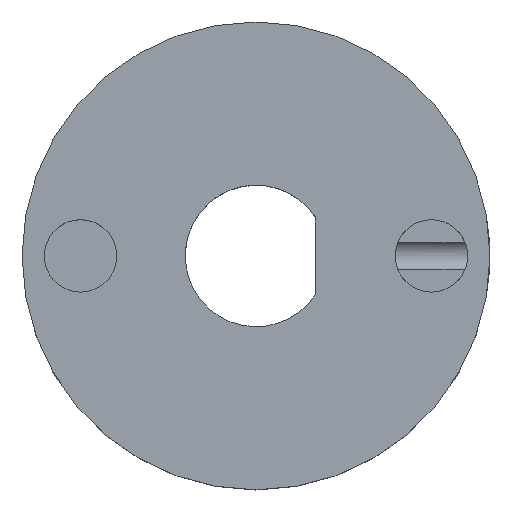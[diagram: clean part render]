
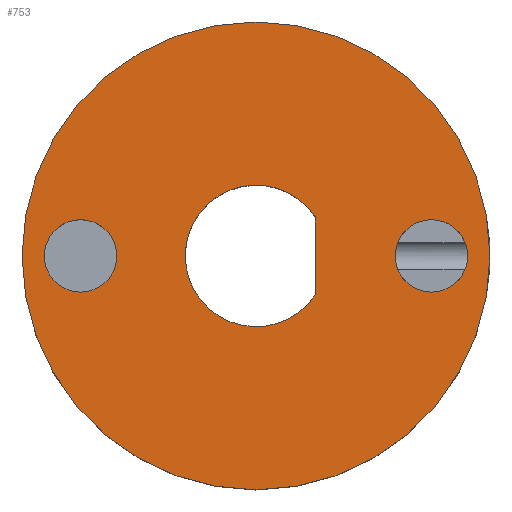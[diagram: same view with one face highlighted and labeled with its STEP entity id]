
A CAD part, top view. The second image highlights one B-rep face of the part: STEP entity #753.
In plain terms, the highlighted planar face has unit normal (0, 0, 1).
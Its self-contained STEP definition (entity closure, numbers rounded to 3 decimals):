
#31 = CYLINDRICAL_SURFACE('',#32,20.);
#32 = AXIS2_PLACEMENT_3D('',#33,#34,#35);
#33 = CARTESIAN_POINT('',(0.,0.,0.));
#34 = DIRECTION('',(-0.,-0.,-1.));
#35 = DIRECTION('',(1.,0.,0.));
#214 = VERTEX_POINT('',#215);
#215 = CARTESIAN_POINT('',(20.,0.,8.));
#236 = EDGE_CURVE('',#214,#214,#237,.T.);
#237 = SURFACE_CURVE('',#238,(#243,#250),.PCURVE_S1.);
#238 = CIRCLE('',#239,20.);
#239 = AXIS2_PLACEMENT_3D('',#240,#241,#242);
#240 = CARTESIAN_POINT('',(0.,0.,8.));
#241 = DIRECTION('',(0.,0.,1.));
#242 = DIRECTION('',(1.,0.,0.));
#243 = PCURVE('',#31,#244);
#244 = DEFINITIONAL_REPRESENTATION('',(#245),#249);
#245 = LINE('',#246,#247);
#246 = CARTESIAN_POINT('',(-0.,-8.));
#247 = VECTOR('',#248,1.);
#248 = DIRECTION('',(-1.,0.));
#249 = ( GEOMETRIC_REPRESENTATION_CONTEXT(2) 
PARAMETRIC_REPRESENTATION_CONTEXT() REPRESENTATION_CONTEXT('2D SPACE',''
  ) );
#250 = PCURVE('',#251,#256);
#251 = PLANE('',#252);
#252 = AXIS2_PLACEMENT_3D('',#253,#254,#255);
#253 = CARTESIAN_POINT('',(0.,0.,8.));
#254 = DIRECTION('',(0.,0.,1.));
#255 = DIRECTION('',(1.,0.,-0.));
#256 = DEFINITIONAL_REPRESENTATION('',(#257),#261);
#257 = CIRCLE('',#258,20.);
#258 = AXIS2_PLACEMENT_2D('',#259,#260);
#259 = CARTESIAN_POINT('',(0.,0.));
#260 = DIRECTION('',(1.,0.));
#261 = ( GEOMETRIC_REPRESENTATION_CONTEXT(2) 
PARAMETRIC_REPRESENTATION_CONTEXT() REPRESENTATION_CONTEXT('2D SPACE',''
  ) );
#380 = CYLINDRICAL_SURFACE('',#381,6.05);
#381 = AXIS2_PLACEMENT_3D('',#382,#383,#384);
#382 = CARTESIAN_POINT('',(0.,0.,0.));
#383 = DIRECTION('',(-0.,-0.,-1.));
#384 = DIRECTION('',(1.,0.,0.));
#406 = PLANE('',#407);
#407 = AXIS2_PLACEMENT_3D('',#408,#409,#410);
#408 = CARTESIAN_POINT('',(5.05,-6.5,0.));
#409 = DIRECTION('',(-1.,0.,0.));
#410 = DIRECTION('',(0.,1.,0.));
#508 = CYLINDRICAL_SURFACE('',#509,3.1);
#509 = AXIS2_PLACEMENT_3D('',#510,#511,#512);
#510 = CARTESIAN_POINT('',(15.,0.,4.8));
#511 = DIRECTION('',(-0.,-0.,-1.));
#512 = DIRECTION('',(1.,0.,0.));
#753 = ADVANCED_FACE('',(#754,#757,#788,#841),#251,.T.);
#754 = FACE_BOUND('',#755,.T.);
#755 = EDGE_LOOP('',(#756));
#756 = ORIENTED_EDGE('',*,*,#236,.T.);
#757 = FACE_BOUND('',#758,.T.);
#758 = EDGE_LOOP('',(#759));
#759 = ORIENTED_EDGE('',*,*,#760,.F.);
#760 = EDGE_CURVE('',#761,#761,#763,.T.);
#761 = VERTEX_POINT('',#762);
#762 = CARTESIAN_POINT('',(-11.9,0.,8.));
#763 = SURFACE_CURVE('',#764,(#769,#776),.PCURVE_S1.);
#764 = CIRCLE('',#765,3.1);
#765 = AXIS2_PLACEMENT_3D('',#766,#767,#768);
#766 = CARTESIAN_POINT('',(-15.,0.,8.));
#767 = DIRECTION('',(0.,0.,1.));
#768 = DIRECTION('',(1.,0.,0.));
#769 = PCURVE('',#251,#770);
#770 = DEFINITIONAL_REPRESENTATION('',(#771),#775);
#771 = CIRCLE('',#772,3.1);
#772 = AXIS2_PLACEMENT_2D('',#773,#774);
#773 = CARTESIAN_POINT('',(-15.,0.));
#774 = DIRECTION('',(1.,0.));
#775 = ( GEOMETRIC_REPRESENTATION_CONTEXT(2) 
PARAMETRIC_REPRESENTATION_CONTEXT() REPRESENTATION_CONTEXT('2D SPACE',''
  ) );
#776 = PCURVE('',#777,#782);
#777 = CYLINDRICAL_SURFACE('',#778,3.1);
#778 = AXIS2_PLACEMENT_3D('',#779,#780,#781);
#779 = CARTESIAN_POINT('',(-15.,0.,4.8));
#780 = DIRECTION('',(-0.,-0.,-1.));
#781 = DIRECTION('',(1.,0.,0.));
#782 = DEFINITIONAL_REPRESENTATION('',(#783),#787);
#783 = LINE('',#784,#785);
#784 = CARTESIAN_POINT('',(-0.,-3.2));
#785 = VECTOR('',#786,1.);
#786 = DIRECTION('',(-1.,0.));
#787 = ( GEOMETRIC_REPRESENTATION_CONTEXT(2) 
PARAMETRIC_REPRESENTATION_CONTEXT() REPRESENTATION_CONTEXT('2D SPACE',''
  ) );
#788 = FACE_BOUND('',#789,.T.);
#789 = EDGE_LOOP('',(#790,#815));
#790 = ORIENTED_EDGE('',*,*,#791,.F.);
#791 = EDGE_CURVE('',#792,#794,#796,.T.);
#792 = VERTEX_POINT('',#793);
#793 = CARTESIAN_POINT('',(5.05,-3.332,8.));
#794 = VERTEX_POINT('',#795);
#795 = CARTESIAN_POINT('',(5.05,3.332,8.));
#796 = SURFACE_CURVE('',#797,(#801,#808),.PCURVE_S1.);
#797 = LINE('',#798,#799);
#798 = CARTESIAN_POINT('',(5.05,-6.5,8.));
#799 = VECTOR('',#800,1.);
#800 = DIRECTION('',(0.,1.,0.));
#801 = PCURVE('',#251,#802);
#802 = DEFINITIONAL_REPRESENTATION('',(#803),#807);
#803 = LINE('',#804,#805);
#804 = CARTESIAN_POINT('',(5.05,-6.5));
#805 = VECTOR('',#806,1.);
#806 = DIRECTION('',(0.,1.));
#807 = ( GEOMETRIC_REPRESENTATION_CONTEXT(2) 
PARAMETRIC_REPRESENTATION_CONTEXT() REPRESENTATION_CONTEXT('2D SPACE',''
  ) );
#808 = PCURVE('',#406,#809);
#809 = DEFINITIONAL_REPRESENTATION('',(#810),#814);
#810 = LINE('',#811,#812);
#811 = CARTESIAN_POINT('',(0.,-8.));
#812 = VECTOR('',#813,1.);
#813 = DIRECTION('',(1.,0.));
#814 = ( GEOMETRIC_REPRESENTATION_CONTEXT(2) 
PARAMETRIC_REPRESENTATION_CONTEXT() REPRESENTATION_CONTEXT('2D SPACE',''
  ) );
#815 = ORIENTED_EDGE('',*,*,#816,.T.);
#816 = EDGE_CURVE('',#792,#794,#817,.T.);
#817 = SURFACE_CURVE('',#818,(#823,#834),.PCURVE_S1.);
#818 = CIRCLE('',#819,6.05);
#819 = AXIS2_PLACEMENT_3D('',#820,#821,#822);
#820 = CARTESIAN_POINT('',(0.,0.,8.));
#821 = DIRECTION('',(0.,-0.,-1.));
#822 = DIRECTION('',(0.835,-0.551,0.));
#823 = PCURVE('',#251,#824);
#824 = DEFINITIONAL_REPRESENTATION('',(#825),#833);
#825 = ( BOUNDED_CURVE() B_SPLINE_CURVE(2,(#826,#827,#828,#829,#830,#831
,#832),.UNSPECIFIED.,.T.,.F.) B_SPLINE_CURVE_WITH_KNOTS((1,2,2,2,2,1),(
    -2.094,0.,2.094,4.189,6.283,
8.378),.UNSPECIFIED.) CURVE() GEOMETRIC_REPRESENTATION_ITEM() 
RATIONAL_B_SPLINE_CURVE((1.,0.5,1.,0.5,1.,0.5,1.)) REPRESENTATION_ITEM(
  '') );
#826 = CARTESIAN_POINT('',(5.05,-3.332));
#827 = CARTESIAN_POINT('',(-0.721,-12.079));
#828 = CARTESIAN_POINT('',(-5.41,-2.708));
#829 = CARTESIAN_POINT('',(-10.1,6.663));
#830 = CARTESIAN_POINT('',(0.36,6.039));
#831 = CARTESIAN_POINT('',(10.821,5.415));
#832 = CARTESIAN_POINT('',(5.05,-3.332));
#833 = ( GEOMETRIC_REPRESENTATION_CONTEXT(2) 
PARAMETRIC_REPRESENTATION_CONTEXT() REPRESENTATION_CONTEXT('2D SPACE',''
  ) );
#834 = PCURVE('',#380,#835);
#835 = DEFINITIONAL_REPRESENTATION('',(#836),#840);
#836 = LINE('',#837,#838);
#837 = CARTESIAN_POINT('',(-5.7,-8.));
#838 = VECTOR('',#839,1.);
#839 = DIRECTION('',(1.,-0.));
#840 = ( GEOMETRIC_REPRESENTATION_CONTEXT(2) 
PARAMETRIC_REPRESENTATION_CONTEXT() REPRESENTATION_CONTEXT('2D SPACE',''
  ) );
#841 = FACE_BOUND('',#842,.T.);
#842 = EDGE_LOOP('',(#843));
#843 = ORIENTED_EDGE('',*,*,#844,.F.);
#844 = EDGE_CURVE('',#845,#845,#847,.T.);
#845 = VERTEX_POINT('',#846);
#846 = CARTESIAN_POINT('',(18.1,0.,8.));
#847 = SURFACE_CURVE('',#848,(#853,#860),.PCURVE_S1.);
#848 = CIRCLE('',#849,3.1);
#849 = AXIS2_PLACEMENT_3D('',#850,#851,#852);
#850 = CARTESIAN_POINT('',(15.,0.,8.));
#851 = DIRECTION('',(0.,0.,1.));
#852 = DIRECTION('',(1.,0.,0.));
#853 = PCURVE('',#251,#854);
#854 = DEFINITIONAL_REPRESENTATION('',(#855),#859);
#855 = CIRCLE('',#856,3.1);
#856 = AXIS2_PLACEMENT_2D('',#857,#858);
#857 = CARTESIAN_POINT('',(15.,0.));
#858 = DIRECTION('',(1.,0.));
#859 = ( GEOMETRIC_REPRESENTATION_CONTEXT(2) 
PARAMETRIC_REPRESENTATION_CONTEXT() REPRESENTATION_CONTEXT('2D SPACE',''
  ) );
#860 = PCURVE('',#508,#861);
#861 = DEFINITIONAL_REPRESENTATION('',(#862),#866);
#862 = LINE('',#863,#864);
#863 = CARTESIAN_POINT('',(-0.,-3.2));
#864 = VECTOR('',#865,1.);
#865 = DIRECTION('',(-1.,0.));
#866 = ( GEOMETRIC_REPRESENTATION_CONTEXT(2) 
PARAMETRIC_REPRESENTATION_CONTEXT() REPRESENTATION_CONTEXT('2D SPACE',''
  ) );
